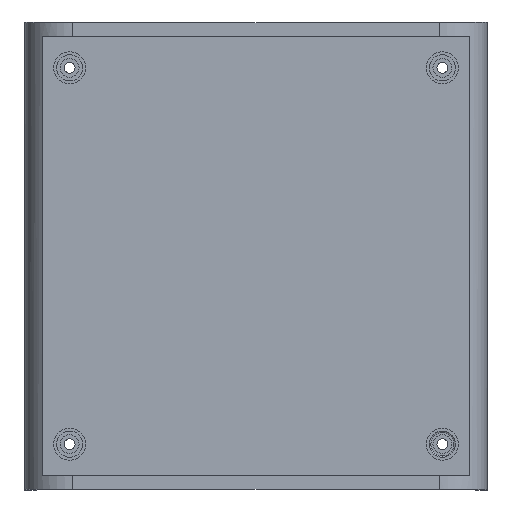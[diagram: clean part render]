
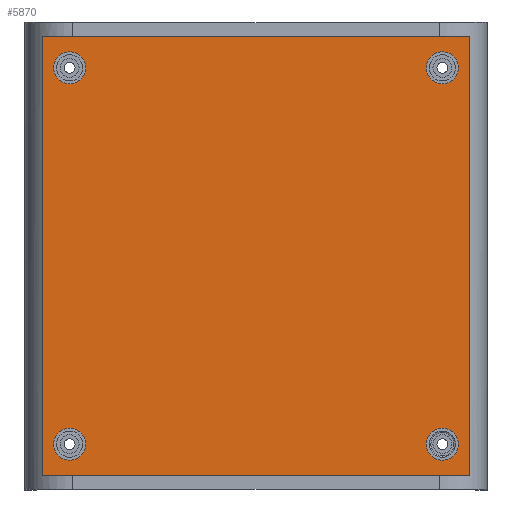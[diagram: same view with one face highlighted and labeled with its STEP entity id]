
A CAD part, front view. The second image highlights one B-rep face of the part: STEP entity #5870.
In plain terms, the highlighted planar face has unit normal (0, -1, 0).
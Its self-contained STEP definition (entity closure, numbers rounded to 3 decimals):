
#123 = AXIS2_PLACEMENT_3D ( 'NONE', #1577, #4968, #5973 ) ;
#172 = DIRECTION ( 'NONE',  ( 0., -1., 0. ) ) ;
#231 = VECTOR ( 'NONE', #395, 1000. ) ;
#293 = AXIS2_PLACEMENT_3D ( 'NONE', #6696, #6681, #6682 ) ;
#334 = CARTESIAN_POINT ( 'NONE',  ( -71.75, -35.5, 73.5 ) ) ;
#356 = VERTEX_POINT ( 'NONE', #5023 ) ;
#363 = ORIENTED_EDGE ( 'NONE', *, *, #3577, .F. ) ;
#395 = DIRECTION ( 'NONE',  ( 1., 0., 0. ) ) ;
#416 = CARTESIAN_POINT ( 'NONE',  ( -62.525, -35.5, -57.75 ) ) ;
#422 = LINE ( 'NONE', #334, #231 ) ;
#438 = CARTESIAN_POINT ( 'NONE',  ( -71.75, -35.5, -73.5 ) ) ;
#469 = VERTEX_POINT ( 'NONE', #4457 ) ;
#471 = DIRECTION ( 'NONE',  ( -1., 0., 0. ) ) ;
#520 = PLANE ( 'NONE',  #3203 ) ;
#584 = CARTESIAN_POINT ( 'NONE',  ( -62.525, -35.5, 68.5 ) ) ;
#726 = VECTOR ( 'NONE', #6391, 1000. ) ;
#839 = LINE ( 'NONE', #6475, #726 ) ;
#892 = EDGE_CURVE ( 'NONE', #1805, #6099, #5070, .T. ) ;
#1025 = CIRCLE ( 'NONE', #5143, 5.375 ) ;
#1158 = DIRECTION ( 'NONE',  ( 0., -1., 0. ) ) ;
#1453 = VERTEX_POINT ( 'NONE', #416 ) ;
#1577 = CARTESIAN_POINT ( 'NONE',  ( 62.525, -35.5, 63.125 ) ) ;
#1766 = CIRCLE ( 'NONE', #6717, 5.375 ) ;
#1805 = VERTEX_POINT ( 'NONE', #6821 ) ;
#1836 = EDGE_CURVE ( 'NONE', #2172, #3940, #7574, .T. ) ;
#1863 = CIRCLE ( 'NONE', #5394, 5.375 ) ;
#1952 = DIRECTION ( 'NONE',  ( 0., 0., 1. ) ) ;
#1963 = DIRECTION ( 'NONE',  ( 0., -1., 0. ) ) ;
#1967 = CARTESIAN_POINT ( 'NONE',  ( -62.525, -35.5, 63.125 ) ) ;
#1992 = DIRECTION ( 'NONE',  ( 0., 0., 1. ) ) ;
#2015 = DIRECTION ( 'NONE',  ( 0., 0., 1. ) ) ;
#2172 = VERTEX_POINT ( 'NONE', #4843 ) ;
#2205 = CARTESIAN_POINT ( 'NONE',  ( 71.75, -35.5, -73.5 ) ) ;
#2234 = CIRCLE ( 'NONE', #5585, 5.375 ) ;
#2361 = CARTESIAN_POINT ( 'NONE',  ( 62.525, -35.5, -57.75 ) ) ;
#2711 = DIRECTION ( 'NONE',  ( 0., 0., -1. ) ) ;
#2765 = ORIENTED_EDGE ( 'NONE', *, *, #5720, .F. ) ;
#2768 = CARTESIAN_POINT ( 'NONE',  ( 71.75, -35.5, -73.5 ) ) ;
#2848 = CARTESIAN_POINT ( 'NONE',  ( -62.525, -35.5, 57.75 ) ) ;
#2940 = EDGE_CURVE ( 'NONE', #1453, #469, #5708, .T. ) ;
#3129 = CARTESIAN_POINT ( 'NONE',  ( -62.525, -35.5, 63.125 ) ) ;
#3142 = DIRECTION ( 'NONE',  ( 0., -1., 0. ) ) ;
#3162 = DIRECTION ( 'NONE',  ( 0., 0., 1. ) ) ;
#3203 = AXIS2_PLACEMENT_3D ( 'NONE', #4720, #6398, #4650 ) ;
#3342 = VECTOR ( 'NONE', #471, 1000. ) ;
#3356 = LINE ( 'NONE', #438, #3342 ) ;
#3486 = VERTEX_POINT ( 'NONE', #2848 ) ;
#3527 = CARTESIAN_POINT ( 'NONE',  ( 62.525, -35.5, -68.5 ) ) ;
#3577 = EDGE_CURVE ( 'NONE', #4620, #3486, #1766, .T. ) ;
#3621 = AXIS2_PLACEMENT_3D ( 'NONE', #4693, #1158, #1992 ) ;
#3680 = ORIENTED_EDGE ( 'NONE', *, *, #5067, .F. ) ;
#3810 = ORIENTED_EDGE ( 'NONE', *, *, #4919, .F. ) ;
#3817 = EDGE_CURVE ( 'NONE', #356, #1805, #422, .T. ) ;
#3940 = VERTEX_POINT ( 'NONE', #7368 ) ;
#3963 = ORIENTED_EDGE ( 'NONE', *, *, #4834, .F. ) ;
#4329 = ORIENTED_EDGE ( 'NONE', *, *, #2940, .F. ) ;
#4457 = CARTESIAN_POINT ( 'NONE',  ( -62.525, -35.5, -68.5 ) ) ;
#4620 = VERTEX_POINT ( 'NONE', #584 ) ;
#4644 = EDGE_CURVE ( 'NONE', #6099, #6450, #3356, .T. ) ;
#4650 = DIRECTION ( 'NONE',  ( 0., 0., 1. ) ) ;
#4693 = CARTESIAN_POINT ( 'NONE',  ( 62.525, -35.5, -63.125 ) ) ;
#4720 = CARTESIAN_POINT ( 'NONE',  ( 0., -35.5, 0. ) ) ;
#4834 = EDGE_CURVE ( 'NONE', #469, #1453, #2234, .T. ) ;
#4843 = CARTESIAN_POINT ( 'NONE',  ( 62.525, -35.5, 57.75 ) ) ;
#4919 = EDGE_CURVE ( 'NONE', #3486, #4620, #1863, .T. ) ;
#4968 = DIRECTION ( 'NONE',  ( 0., -1., 0. ) ) ;
#4983 = VECTOR ( 'NONE', #2711, 1000. ) ;
#5005 = ORIENTED_EDGE ( 'NONE', *, *, #3817, .F. ) ;
#5023 = CARTESIAN_POINT ( 'NONE',  ( -71.75, -35.5, 73.5 ) ) ;
#5067 = EDGE_CURVE ( 'NONE', #5921, #5468, #1025, .T. ) ;
#5070 = LINE ( 'NONE', #2768, #4983 ) ;
#5131 = EDGE_CURVE ( 'NONE', #6450, #356, #839, .T. ) ;
#5143 = AXIS2_PLACEMENT_3D ( 'NONE', #6727, #6712, #6711 ) ;
#5264 = CARTESIAN_POINT ( 'NONE',  ( -71.75, -35.5, -73.5 ) ) ;
#5394 = AXIS2_PLACEMENT_3D ( 'NONE', #3129, #3142, #3162 ) ;
#5417 = CARTESIAN_POINT ( 'NONE',  ( -62.525, -35.5, -63.125 ) ) ;
#5449 = CIRCLE ( 'NONE', #123, 5.375 ) ;
#5468 = VERTEX_POINT ( 'NONE', #3527 ) ;
#5507 = CIRCLE ( 'NONE', #3621, 5.375 ) ;
#5568 = ORIENTED_EDGE ( 'NONE', *, *, #892, .F. ) ;
#5585 = AXIS2_PLACEMENT_3D ( 'NONE', #5417, #172, #2015 ) ;
#5708 = CIRCLE ( 'NONE', #7117, 5.375 ) ;
#5720 = EDGE_CURVE ( 'NONE', #5468, #5921, #5507, .T. ) ;
#5870 = ADVANCED_FACE ( 'NONE', ( #6667, #6911, #7555, #6744, #6580 ), #520, .F. ) ;
#5921 = VERTEX_POINT ( 'NONE', #2361 ) ;
#5931 = ORIENTED_EDGE ( 'NONE', *, *, #4644, .F. ) ;
#5955 = EDGE_LOOP ( 'NONE', ( #3680, #2765 ) ) ;
#5973 = DIRECTION ( 'NONE',  ( 0., 0., 1. ) ) ;
#6099 = VERTEX_POINT ( 'NONE', #2205 ) ;
#6391 = DIRECTION ( 'NONE',  ( 0., 0., 1. ) ) ;
#6398 = DIRECTION ( 'NONE',  ( 0., 1., 0. ) ) ;
#6424 = DIRECTION ( 'NONE',  ( 0., 0., 1. ) ) ;
#6434 = DIRECTION ( 'NONE',  ( 0., -1., 0. ) ) ;
#6450 = VERTEX_POINT ( 'NONE', #5264 ) ;
#6455 = CARTESIAN_POINT ( 'NONE',  ( -62.525, -35.5, -63.125 ) ) ;
#6475 = CARTESIAN_POINT ( 'NONE',  ( -71.75, -35.5, -73.5 ) ) ;
#6555 = ORIENTED_EDGE ( 'NONE', *, *, #5131, .F. ) ;
#6580 = FACE_BOUND ( 'NONE', #6993, .T. ) ;
#6648 = EDGE_LOOP ( 'NONE', ( #4329, #3963 ) ) ;
#6659 = EDGE_LOOP ( 'NONE', ( #363, #3810 ) ) ;
#6667 = FACE_BOUND ( 'NONE', #6648, .T. ) ;
#6681 = DIRECTION ( 'NONE',  ( 0., -1., 0. ) ) ;
#6682 = DIRECTION ( 'NONE',  ( 0., 0., 1. ) ) ;
#6696 = CARTESIAN_POINT ( 'NONE',  ( 62.525, -35.5, 63.125 ) ) ;
#6711 = DIRECTION ( 'NONE',  ( 0., 0., 1. ) ) ;
#6712 = DIRECTION ( 'NONE',  ( 0., -1., 0. ) ) ;
#6717 = AXIS2_PLACEMENT_3D ( 'NONE', #1967, #1963, #1952 ) ;
#6727 = CARTESIAN_POINT ( 'NONE',  ( 62.525, -35.5, -63.125 ) ) ;
#6744 = FACE_BOUND ( 'NONE', #6659, .T. ) ;
#6798 = ORIENTED_EDGE ( 'NONE', *, *, #1836, .F. ) ;
#6821 = CARTESIAN_POINT ( 'NONE',  ( 71.75, -35.5, 73.5 ) ) ;
#6911 = FACE_BOUND ( 'NONE', #5955, .T. ) ;
#6993 = EDGE_LOOP ( 'NONE', ( #7623, #6798 ) ) ;
#7117 = AXIS2_PLACEMENT_3D ( 'NONE', #6455, #6434, #6424 ) ;
#7261 = EDGE_LOOP ( 'NONE', ( #6555, #5931, #5568, #5005 ) ) ;
#7288 = EDGE_CURVE ( 'NONE', #3940, #2172, #5449, .T. ) ;
#7368 = CARTESIAN_POINT ( 'NONE',  ( 62.525, -35.5, 68.5 ) ) ;
#7555 = FACE_OUTER_BOUND ( 'NONE', #7261, .T. ) ;
#7574 = CIRCLE ( 'NONE', #293, 5.375 ) ;
#7623 = ORIENTED_EDGE ( 'NONE', *, *, #7288, .F. ) ;
